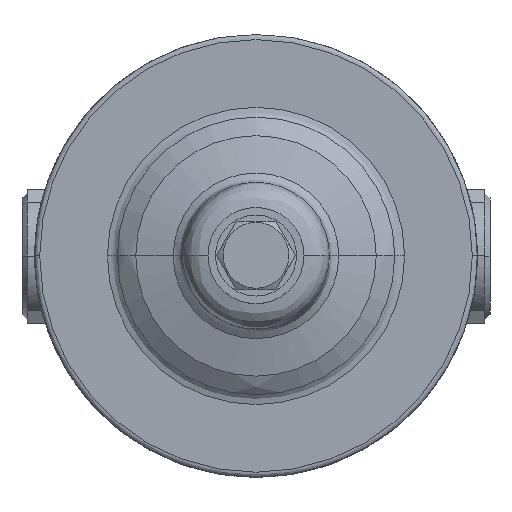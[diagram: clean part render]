
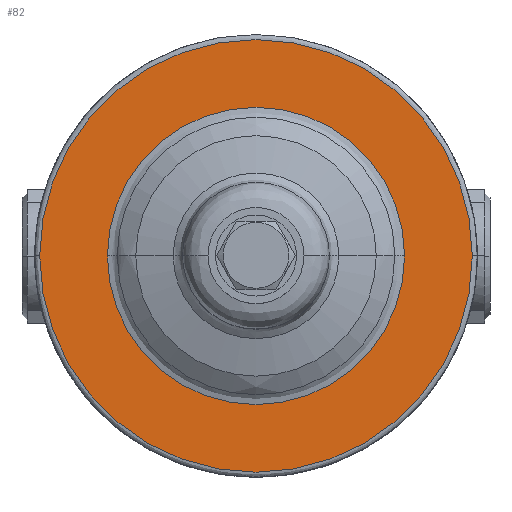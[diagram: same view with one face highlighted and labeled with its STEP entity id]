
A CAD part, top view. The second image highlights one B-rep face of the part: STEP entity #82.
In plain terms, the highlighted planar face has unit normal (0, 0, 1).
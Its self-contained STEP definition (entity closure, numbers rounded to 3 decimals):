
#82=ADVANCED_FACE('',(#630,#631),#629,.F.);
#629=PLANE('',#2604);
#630=FACE_OUTER_BOUND('',#2605,.T.);
#631=FACE_BOUND('',#2606,.T.);
#2601=CARTESIAN_POINT('',(181.,-158.09,54.985));
#2602=DIRECTION('',(0.,0.,-1.));
#2603=DIRECTION('',(-1.,0.,0.));
#2604=AXIS2_PLACEMENT_3D('',#2601,#2602,#2603);
#2605=EDGE_LOOP('',(#5097,#5098));
#2606=EDGE_LOOP('',(#5099,#5100));
#5097=ORIENTED_EDGE('',*,*,#5848,.T.);
#5098=ORIENTED_EDGE('',*,*,#5849,.T.);
#5099=ORIENTED_EDGE('',*,*,#5850,.T.);
#5100=ORIENTED_EDGE('',*,*,#5851,.T.);
#5848=EDGE_CURVE('',#7055,#7056,#7057,.T.);
#5849=EDGE_CURVE('',#7056,#7055,#7063,.T.);
#5850=EDGE_CURVE('',#7069,#7070,#7071,.T.);
#5851=EDGE_CURVE('',#7070,#7069,#7077,.T.);
#7055=VERTEX_POINT('',#9646);
#7056=VERTEX_POINT('',#9647);
#7057=CIRCLE('',#9651,85.5);
#7063=CIRCLE('',#9655,85.5);
#7069=VERTEX_POINT('',#9656);
#7070=VERTEX_POINT('',#9657);
#7071=CIRCLE('',#9661,58.75);
#7077=CIRCLE('',#9665,58.75);
#9646=CARTESIAN_POINT('',(-85.5,0.,54.985));
#9647=CARTESIAN_POINT('',(85.5,0.,54.985));
#9648=CARTESIAN_POINT('',(0.,0.,54.985));
#9649=DIRECTION('',(0.,0.,1.));
#9650=DIRECTION('',(-1.,0.,0.));
#9651=AXIS2_PLACEMENT_3D('',#9648,#9649,#9650);
#9652=CARTESIAN_POINT('',(0.,0.,54.985));
#9653=DIRECTION('',(0.,0.,1.));
#9654=DIRECTION('',(-1.,0.,0.));
#9655=AXIS2_PLACEMENT_3D('',#9652,#9653,#9654);
#9656=CARTESIAN_POINT('',(-58.75,0.,54.985));
#9657=CARTESIAN_POINT('',(58.75,0.,54.985));
#9658=CARTESIAN_POINT('',(0.,0.,54.985));
#9659=DIRECTION('',(0.,0.,-1.));
#9660=DIRECTION('',(-1.,0.,0.));
#9661=AXIS2_PLACEMENT_3D('',#9658,#9659,#9660);
#9662=CARTESIAN_POINT('',(0.,0.,54.985));
#9663=DIRECTION('',(0.,0.,-1.));
#9664=DIRECTION('',(-1.,0.,0.));
#9665=AXIS2_PLACEMENT_3D('',#9662,#9663,#9664);
